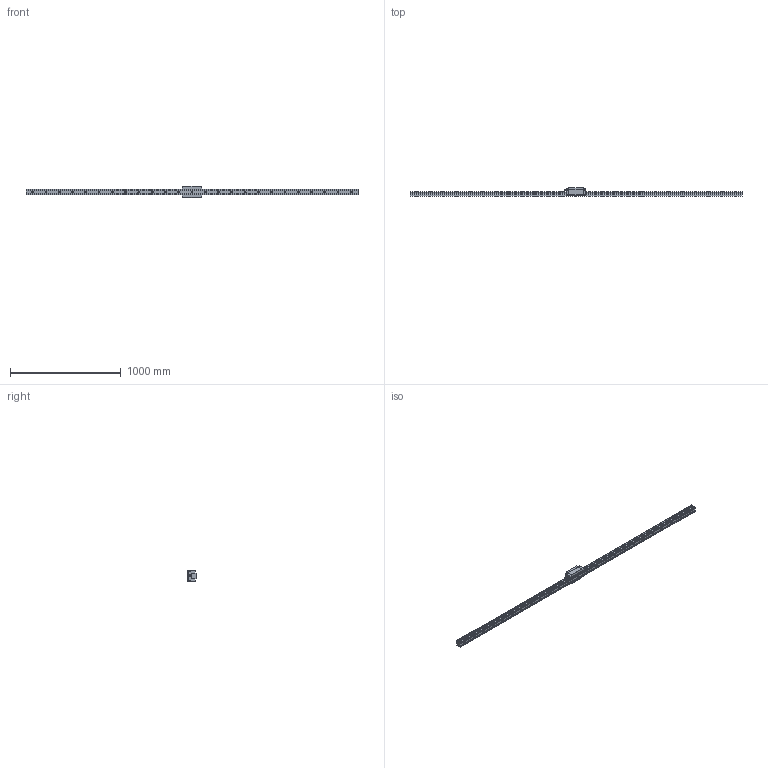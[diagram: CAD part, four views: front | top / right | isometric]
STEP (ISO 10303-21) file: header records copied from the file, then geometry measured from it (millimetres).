
FILE_DESCRIPTION(/* description */ ('STEP AP214'),/* implementation_level */ '2;1');
FILE_NAME(/* name */ 'HDR55R1SS-3000L_G60_0_B-PT18_1410-4_0_0_01',/* time_stamp */ '2023-06-30T12:33:34+02:00',/* author */ ('License CC BY-ND 4.0'),/* organization */ ('CADENAS'),/* preprocessor_version */ 'ST-DEVELOPER v19.3',/* originating_system */ 'PARTsolutions',/* authorisation */ ' ');
FILE_SCHEMA (('AUTOMOTIVE_DESIGN {1 0 10303 214 3 1 1}'));
Length unit declared in the file: millimetre
Products named in the file (4): HDR55R1SS-3000L_G60_0_B-PT18_1410-4_0_0_01; hsr_ftht_B-PT1/8_grease_nipple_joint; HDR55RSSB-PT1/81 Slider; HDR55R1300060 Rail
Assembly tree (3 placements, depth 2):
  HDR55R1SS-3000L_G60_0_B-PT18_1410-4_0_0_01
    hsr_ftht_B-PT1/8_grease_nipple_joint
    HDR55RSSB-PT1/81 Slider
    HDR55R1300060 Rail
Bounding box: 3000 x 80 x 100 mm (x, y, z)
Volume: 6556344.8 mm3; surface area: 760905.2 mm2
Topology: 3 solids, 3 shells, 304 faces, 754 edges, 491 vertices
Faces by surface type: plane 164, cylinder 111, cone 24, torus 3, sphere 2
Full cylindrical faces by diameter (mm): 5.2 x4, 9.6 x1, 10.106 x6, 10.2 x2, 12.5 x2, 16 x25, 23 x25
Entity records: 8728 total; most frequent: CARTESIAN_POINT 1565, DIRECTION 1482, ORIENTED_EDGE 1290, EDGE_CURVE 645, AXIS2_PLACEMENT_3D 556, FACE_BOUND 491, VERTEX_POINT 484, EDGE_LOOP 483
